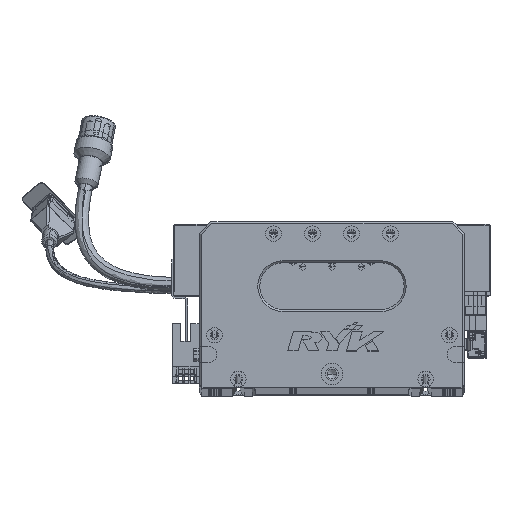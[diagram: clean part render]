
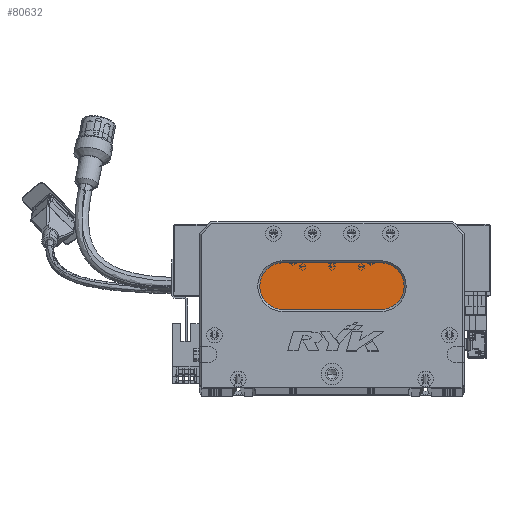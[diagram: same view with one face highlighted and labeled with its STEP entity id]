
A CAD part, top view. The second image highlights one B-rep face of the part: STEP entity #80632.
In plain terms, the highlighted planar face has unit normal (0, 0, 1) as drawn and (0, 0, -1) by its records, which use the part's own axes.
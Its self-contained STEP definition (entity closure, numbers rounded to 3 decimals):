
#1800 = CARTESIAN_POINT ( 'NONE',  ( 93., 40., 13. ) ) ;
#4846 = VERTEX_POINT ( 'NONE', #35401 ) ;
#7285 = ORIENTED_EDGE ( 'NONE', *, *, #13174, .T. ) ;
#7568 = AXIS2_PLACEMENT_3D ( 'NONE', #62030, #80554, #90552 ) ;
#11316 = LINE ( 'NONE', #56967, #12900 ) ;
#12900 = VECTOR ( 'NONE', #65855, 1000. ) ;
#13174 = EDGE_CURVE ( 'NONE', #4846, #45335, #39802, .T. ) ;
#22315 = ORIENTED_EDGE ( 'NONE', *, *, #71824, .T. ) ;
#22465 = FACE_OUTER_BOUND ( 'NONE', #89041, .T. ) ;
#23072 = ORIENTED_EDGE ( 'NONE', *, *, #89186, .T. ) ;
#25833 = EDGE_CURVE ( 'NONE', #64658, #4846, #81394, .T. ) ;
#27161 = CARTESIAN_POINT ( 'NONE',  ( 93., 64., 13. ) ) ;
#27876 = AXIS2_PLACEMENT_3D ( 'NONE', #36219, #64819, #46290 ) ;
#29353 = DIRECTION ( 'NONE',  ( 0., 0., -1. ) ) ;
#32604 = DIRECTION ( 'NONE',  ( 1., 0., 0. ) ) ;
#33736 = AXIS2_PLACEMENT_3D ( 'NONE', #43876, #80192, #80970 ) ;
#35401 = CARTESIAN_POINT ( 'NONE',  ( 31., 52., 13. ) ) ;
#35942 = CIRCLE ( 'NONE', #7568, 12. ) ;
#36219 = CARTESIAN_POINT ( 'NONE',  ( 93., 52., 13. ) ) ;
#39802 = CIRCLE ( 'NONE', #33736, 12. ) ;
#43677 = LINE ( 'NONE', #109060, #72627 ) ;
#43876 = CARTESIAN_POINT ( 'NONE',  ( 43., 52., 13. ) ) ;
#45335 = VERTEX_POINT ( 'NONE', #55828 ) ;
#46290 = DIRECTION ( 'NONE',  ( -1., 0., 0. ) ) ;
#47888 = DIRECTION ( 'NONE',  ( -1., 0., 0. ) ) ;
#53541 = ORIENTED_EDGE ( 'NONE', *, *, #25833, .T. ) ;
#55828 = CARTESIAN_POINT ( 'NONE',  ( 43., 64., 13. ) ) ;
#56967 = CARTESIAN_POINT ( 'NONE',  ( 93., 40., 13. ) ) ;
#62030 = CARTESIAN_POINT ( 'NONE',  ( 93., 52., 13. ) ) ;
#64658 = VERTEX_POINT ( 'NONE', #77101 ) ;
#64819 = DIRECTION ( 'NONE',  ( 0., 0., -1. ) ) ;
#65855 = DIRECTION ( 'NONE',  ( -1., 0., 0. ) ) ;
#71824 = EDGE_CURVE ( 'NONE', #45335, #112651, #43677, .T. ) ;
#72627 = VECTOR ( 'NONE', #32604, 1000. ) ;
#73873 = AXIS2_PLACEMENT_3D ( 'NONE', #75316, #29353, #47888 ) ;
#75316 = CARTESIAN_POINT ( 'NONE',  ( 43., 52., 13. ) ) ;
#77101 = CARTESIAN_POINT ( 'NONE',  ( 43., 40., 13. ) ) ;
#80192 = DIRECTION ( 'NONE',  ( 0., 0., -1. ) ) ;
#80554 = DIRECTION ( 'NONE',  ( 0., 0., -1. ) ) ;
#80632 = ADVANCED_FACE ( 'NONE', ( #22465 ), #99885, .T. ) ;
#80970 = DIRECTION ( 'NONE',  ( -1., 0., 0. ) ) ;
#81394 = CIRCLE ( 'NONE', #73873, 12. ) ;
#89041 = EDGE_LOOP ( 'NONE', ( #23072, #99571, #53541, #7285, #22315 ) ) ;
#89186 = EDGE_CURVE ( 'NONE', #112651, #93907, #35942, .T. ) ;
#90552 = DIRECTION ( 'NONE',  ( -1., 0., 0. ) ) ;
#93907 = VERTEX_POINT ( 'NONE', #1800 ) ;
#96436 = EDGE_CURVE ( 'NONE', #93907, #64658, #11316, .T. ) ;
#99571 = ORIENTED_EDGE ( 'NONE', *, *, #96436, .T. ) ;
#99885 = PLANE ( 'NONE',  #27876 ) ;
#109060 = CARTESIAN_POINT ( 'NONE',  ( 93., 64., 13. ) ) ;
#112651 = VERTEX_POINT ( 'NONE', #27161 ) ;
